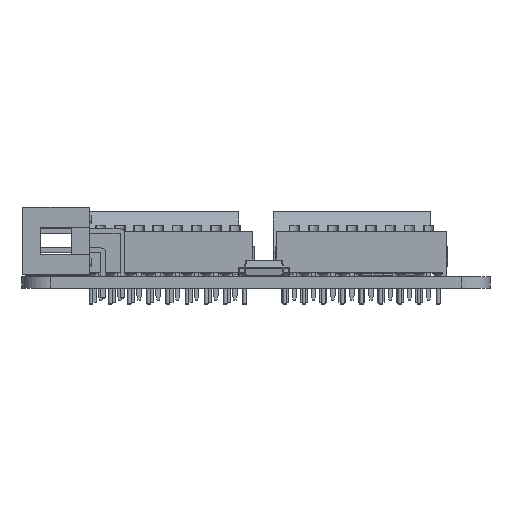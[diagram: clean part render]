
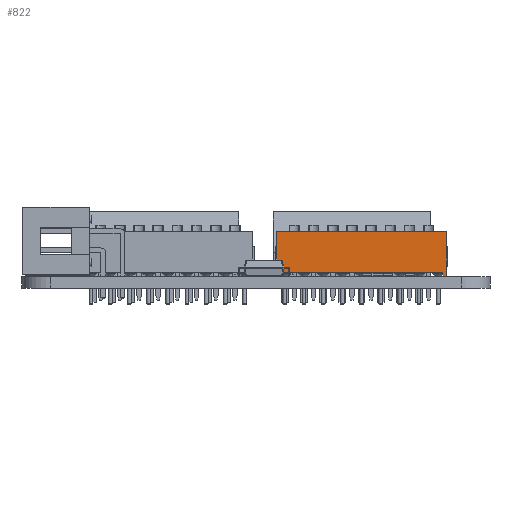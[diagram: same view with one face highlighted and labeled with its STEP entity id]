
A CAD part, left-side view. The second image highlights one B-rep face of the part: STEP entity #822.
In plain terms, the highlighted planar face has unit normal (-1, 0, 0) as drawn and (0, -1, 0) by its records, which use the part's own axes.
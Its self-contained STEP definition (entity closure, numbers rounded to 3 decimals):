
#100 = VERTEX_POINT('',#101);
#101 = CARTESIAN_POINT('',(19.6,-1.14,0.));
#109 = EDGE_CURVE('',#100,#110,#112,.T.);
#110 = VERTEX_POINT('',#111);
#111 = CARTESIAN_POINT('',(19.6,-1.14,0.5));
#112 = LINE('',#113,#114);
#113 = CARTESIAN_POINT('',(19.6,-1.14,0.));
#114 = VECTOR('',#115,1.);
#115 = DIRECTION('',(0.,0.,1.));
#139 = EDGE_CURVE('',#100,#140,#142,.T.);
#140 = VERTEX_POINT('',#141);
#141 = CARTESIAN_POINT('',(20.1,-1.14,0.));
#142 = LINE('',#143,#144);
#143 = CARTESIAN_POINT('',(-2.4,-1.14,0.));
#144 = VECTOR('',#145,1.);
#145 = DIRECTION('',(1.,0.,0.));
#220 = EDGE_CURVE('',#221,#110,#223,.T.);
#221 = VERTEX_POINT('',#222);
#222 = CARTESIAN_POINT('',(-1.9,-1.14,0.5));
#223 = LINE('',#224,#225);
#224 = CARTESIAN_POINT('',(-1.9,-1.14,0.5));
#225 = VECTOR('',#226,1.);
#226 = DIRECTION('',(1.,0.,0.));
#822 = ADVANCED_FACE('',(#823),#866,.F.);
#823 = FACE_BOUND('',#824,.F.);
#824 = EDGE_LOOP('',(#825,#835,#843,#851,#857,#858,#859,#860));
#825 = ORIENTED_EDGE('',*,*,#826,.F.);
#826 = EDGE_CURVE('',#827,#829,#831,.T.);
#827 = VERTEX_POINT('',#828);
#828 = CARTESIAN_POINT('',(-2.4,-1.14,0.));
#829 = VERTEX_POINT('',#830);
#830 = CARTESIAN_POINT('',(-1.9,-1.14,0.));
#831 = LINE('',#832,#833);
#832 = CARTESIAN_POINT('',(-2.4,-1.14,0.));
#833 = VECTOR('',#834,1.);
#834 = DIRECTION('',(1.,0.,0.));
#835 = ORIENTED_EDGE('',*,*,#836,.T.);
#836 = EDGE_CURVE('',#827,#837,#839,.T.);
#837 = VERTEX_POINT('',#838);
#838 = CARTESIAN_POINT('',(-2.4,-1.14,5.85));
#839 = LINE('',#840,#841);
#840 = CARTESIAN_POINT('',(-2.4,-1.14,0.));
#841 = VECTOR('',#842,1.);
#842 = DIRECTION('',(0.,0.,1.));
#843 = ORIENTED_EDGE('',*,*,#844,.T.);
#844 = EDGE_CURVE('',#837,#845,#847,.T.);
#845 = VERTEX_POINT('',#846);
#846 = CARTESIAN_POINT('',(20.1,-1.14,5.85));
#847 = LINE('',#848,#849);
#848 = CARTESIAN_POINT('',(-2.4,-1.14,5.85));
#849 = VECTOR('',#850,1.);
#850 = DIRECTION('',(1.,0.,0.));
#851 = ORIENTED_EDGE('',*,*,#852,.F.);
#852 = EDGE_CURVE('',#140,#845,#853,.T.);
#853 = LINE('',#854,#855);
#854 = CARTESIAN_POINT('',(20.1,-1.14,0.));
#855 = VECTOR('',#856,1.);
#856 = DIRECTION('',(0.,0.,1.));
#857 = ORIENTED_EDGE('',*,*,#139,.F.);
#858 = ORIENTED_EDGE('',*,*,#109,.T.);
#859 = ORIENTED_EDGE('',*,*,#220,.F.);
#860 = ORIENTED_EDGE('',*,*,#861,.F.);
#861 = EDGE_CURVE('',#829,#221,#862,.T.);
#862 = LINE('',#863,#864);
#863 = CARTESIAN_POINT('',(-1.9,-1.14,0.));
#864 = VECTOR('',#865,1.);
#865 = DIRECTION('',(0.,0.,1.));
#866 = PLANE('',#867);
#867 = AXIS2_PLACEMENT_3D('',#868,#869,#870);
#868 = CARTESIAN_POINT('',(-2.4,-1.14,0.));
#869 = DIRECTION('',(0.,1.,0.));
#870 = DIRECTION('',(1.,0.,0.));
